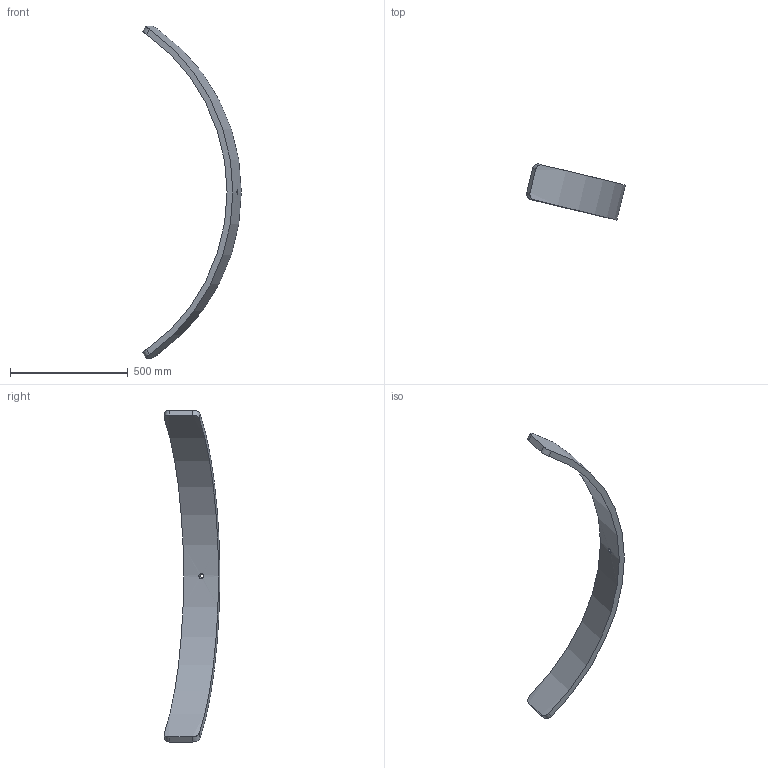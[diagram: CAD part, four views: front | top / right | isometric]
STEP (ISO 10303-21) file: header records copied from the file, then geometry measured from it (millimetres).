
FILE_DESCRIPTION (( 'STEP AP214' ), '1' );
FILE_NAME ('Section 5 AR.STEP', '2025-01-09T19:43:27', ( '' ), ( '' ), 'SwSTEP 2.0', 'SolidWorks 2024', '' );
FILE_SCHEMA (( 'AUTOMOTIVE_DESIGN' ));
Length unit declared in the file: inch
Products named in the file (1): Section 5 AR
Bounding box: 418.23 x 236.83 x 1409.39 mm (x, y, z)
Volume: 6364186.1 mm3; surface area: 593105.5 mm2
Topology: 1 solids, 1 shells, 11 faces, 27 edges, 18 vertices
Faces by surface type: cylinder 7, plane 4
Full cylindrical faces by diameter (mm): 19.431 x1
Entity records: 745 total; most frequent: CARTESIAN_POINT 470, ORIENTED_EDGE 52, DIRECTION 44, EDGE_CURVE 26, VERTEX_POINT 18, AXIS2_PLACEMENT_3D 16, EDGE_LOOP 14, FACE_OUTER_BOUND 12
